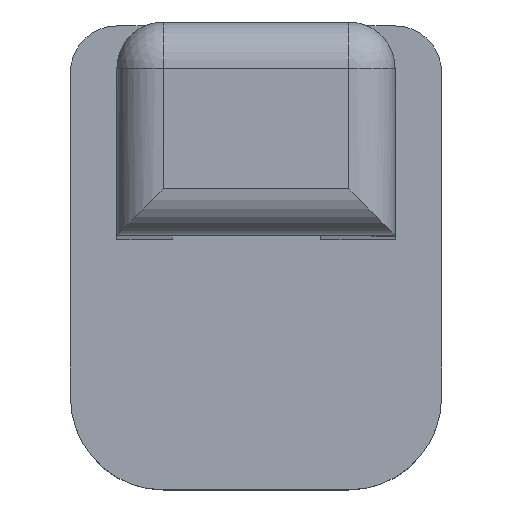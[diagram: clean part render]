
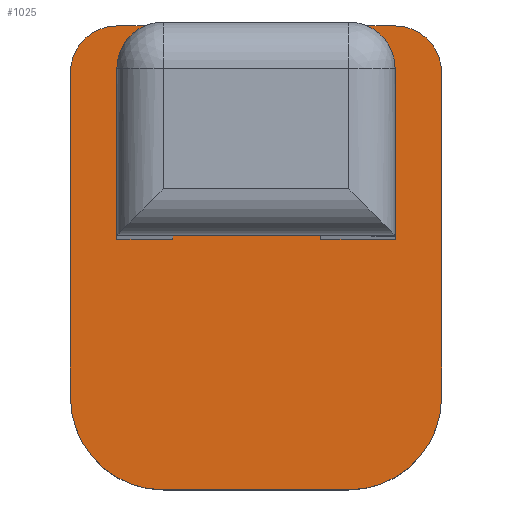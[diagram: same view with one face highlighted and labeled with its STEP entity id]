
A CAD part, top view. The second image highlights one B-rep face of the part: STEP entity #1025.
In plain terms, the highlighted planar face has unit normal (0, 0, 1).
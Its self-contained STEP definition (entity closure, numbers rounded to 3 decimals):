
#25=CIRCLE('',#1110,1.);
#40=CIRCLE('',#1127,2.);
#41=CIRCLE('',#1128,2.);
#42=CIRCLE('',#1129,1.);
#43=CIRCLE('',#1130,1.);
#44=CIRCLE('',#1131,1.);
#108=FACE_OUTER_BOUND('',#176,.T.);
#176=EDGE_LOOP('',(#752,#753,#754,#755,#756,#757,#758,#759,#760,#761,#762,
#763,#764,#765,#766,#767,#768,#769));
#270=LINE('',#1629,#371);
#275=LINE('',#1650,#376);
#278=LINE('',#1667,#379);
#279=LINE('',#1671,#380);
#280=LINE('',#1675,#381);
#281=LINE('',#1680,#382);
#282=LINE('',#1682,#383);
#283=LINE('',#1684,#384);
#284=LINE('',#1686,#385);
#285=LINE('',#1688,#386);
#286=LINE('',#1690,#387);
#287=LINE('',#1692,#388);
#371=VECTOR('',#1290,10.);
#376=VECTOR('',#1309,10.);
#379=VECTOR('',#1328,10.);
#380=VECTOR('',#1331,10.);
#381=VECTOR('',#1334,10.);
#382=VECTOR('',#1339,10.);
#383=VECTOR('',#1340,10.);
#384=VECTOR('',#1341,10.);
#385=VECTOR('',#1342,10.);
#386=VECTOR('',#1343,10.);
#387=VECTOR('',#1344,10.);
#388=VECTOR('',#1345,10.);
#460=VERTEX_POINT('',#1622);
#461=VERTEX_POINT('',#1624);
#462=VERTEX_POINT('',#1628);
#470=VERTEX_POINT('',#1647);
#471=VERTEX_POINT('',#1649);
#477=VERTEX_POINT('',#1666);
#478=VERTEX_POINT('',#1668);
#479=VERTEX_POINT('',#1670);
#480=VERTEX_POINT('',#1672);
#481=VERTEX_POINT('',#1674);
#482=VERTEX_POINT('',#1677);
#483=VERTEX_POINT('',#1679);
#484=VERTEX_POINT('',#1681);
#485=VERTEX_POINT('',#1683);
#486=VERTEX_POINT('',#1685);
#487=VERTEX_POINT('',#1687);
#488=VERTEX_POINT('',#1689);
#489=VERTEX_POINT('',#1691);
#560=EDGE_CURVE('',#460,#461,#25,.T.);
#562=EDGE_CURVE('',#461,#462,#270,.T.);
#574=EDGE_CURVE('',#470,#471,#275,.T.);
#584=EDGE_CURVE('',#477,#460,#278,.T.);
#585=EDGE_CURVE('',#478,#477,#40,.T.);
#586=EDGE_CURVE('',#479,#478,#279,.T.);
#587=EDGE_CURVE('',#480,#479,#41,.T.);
#588=EDGE_CURVE('',#481,#480,#280,.T.);
#589=EDGE_CURVE('',#471,#481,#42,.T.);
#590=EDGE_CURVE('',#482,#470,#43,.F.);
#591=EDGE_CURVE('',#482,#483,#281,.T.);
#592=EDGE_CURVE('',#483,#484,#282,.T.);
#593=EDGE_CURVE('',#484,#485,#283,.T.);
#594=EDGE_CURVE('',#485,#486,#284,.T.);
#595=EDGE_CURVE('',#486,#487,#285,.T.);
#596=EDGE_CURVE('',#487,#488,#286,.T.);
#597=EDGE_CURVE('',#488,#489,#287,.T.);
#598=EDGE_CURVE('',#462,#489,#44,.F.);
#752=ORIENTED_EDGE('',*,*,#560,.F.);
#753=ORIENTED_EDGE('',*,*,#584,.F.);
#754=ORIENTED_EDGE('',*,*,#585,.F.);
#755=ORIENTED_EDGE('',*,*,#586,.F.);
#756=ORIENTED_EDGE('',*,*,#587,.F.);
#757=ORIENTED_EDGE('',*,*,#588,.F.);
#758=ORIENTED_EDGE('',*,*,#589,.F.);
#759=ORIENTED_EDGE('',*,*,#574,.F.);
#760=ORIENTED_EDGE('',*,*,#590,.F.);
#761=ORIENTED_EDGE('',*,*,#591,.T.);
#762=ORIENTED_EDGE('',*,*,#592,.T.);
#763=ORIENTED_EDGE('',*,*,#593,.T.);
#764=ORIENTED_EDGE('',*,*,#594,.T.);
#765=ORIENTED_EDGE('',*,*,#595,.T.);
#766=ORIENTED_EDGE('',*,*,#596,.T.);
#767=ORIENTED_EDGE('',*,*,#597,.T.);
#768=ORIENTED_EDGE('',*,*,#598,.F.);
#769=ORIENTED_EDGE('',*,*,#562,.F.);
#984=PLANE('',#1126);
#1025=ADVANCED_FACE('',(#108),#984,.T.);
#1110=AXIS2_PLACEMENT_3D('',#1625,#1285,#1286);
#1126=AXIS2_PLACEMENT_3D('',#1665,#1326,#1327);
#1127=AXIS2_PLACEMENT_3D('',#1669,#1329,#1330);
#1128=AXIS2_PLACEMENT_3D('',#1673,#1332,#1333);
#1129=AXIS2_PLACEMENT_3D('',#1676,#1335,#1336);
#1130=AXIS2_PLACEMENT_3D('',#1678,#1337,#1338);
#1131=AXIS2_PLACEMENT_3D('',#1693,#1346,#1347);
#1285=DIRECTION('center_axis',(0.,0.,-1.));
#1286=DIRECTION('ref_axis',(-0.707,0.707,0.));
#1290=DIRECTION('',(1.,0.,0.));
#1309=DIRECTION('',(1.,0.,0.));
#1326=DIRECTION('center_axis',(0.,0.,1.));
#1327=DIRECTION('ref_axis',(1.,0.,0.));
#1328=DIRECTION('',(0.,1.,0.));
#1329=DIRECTION('center_axis',(0.,0.,-1.));
#1330=DIRECTION('ref_axis',(-0.707,-0.707,0.));
#1331=DIRECTION('',(-1.,0.,0.));
#1332=DIRECTION('center_axis',(0.,0.,-1.));
#1333=DIRECTION('ref_axis',(0.707,-0.707,0.));
#1334=DIRECTION('',(0.,-1.,0.));
#1335=DIRECTION('center_axis',(0.,0.,-1.));
#1336=DIRECTION('ref_axis',(0.707,0.707,0.));
#1337=DIRECTION('center_axis',(0.,0.,-1.));
#1338=DIRECTION('ref_axis',(0.707,0.707,0.));
#1339=DIRECTION('',(0.,-1.,0.));
#1340=DIRECTION('',(-1.,0.,0.));
#1341=DIRECTION('',(0.,1.,0.));
#1342=DIRECTION('',(-1.,0.,0.));
#1343=DIRECTION('',(0.,-1.,0.));
#1344=DIRECTION('',(-1.,0.,0.));
#1345=DIRECTION('',(0.,1.,0.));
#1346=DIRECTION('center_axis',(0.,0.,-1.));
#1347=DIRECTION('ref_axis',(-0.707,0.707,0.));
#1622=CARTESIAN_POINT('',(-1.,3.6,0.));
#1624=CARTESIAN_POINT('',(0.,4.6,0.));
#1625=CARTESIAN_POINT('Origin',(0.,3.6,0.));
#1628=CARTESIAN_POINT('',(1.,4.6,0.));
#1629=CARTESIAN_POINT('',(-1.,4.6,0.));
#1647=CARTESIAN_POINT('',(5.,4.6,0.));
#1649=CARTESIAN_POINT('',(6.,4.6,0.));
#1650=CARTESIAN_POINT('',(-1.,4.6,0.));
#1665=CARTESIAN_POINT('Origin',(3.,-0.4,0.));
#1666=CARTESIAN_POINT('',(-1.,-3.4,0.));
#1667=CARTESIAN_POINT('',(-1.,-5.4,0.));
#1668=CARTESIAN_POINT('',(1.,-5.4,0.));
#1669=CARTESIAN_POINT('Origin',(1.,-3.4,0.));
#1670=CARTESIAN_POINT('',(5.,-5.4,0.));
#1671=CARTESIAN_POINT('',(7.,-5.4,0.));
#1672=CARTESIAN_POINT('',(7.,-3.4,0.));
#1673=CARTESIAN_POINT('Origin',(5.,-3.4,0.));
#1674=CARTESIAN_POINT('',(7.,3.6,0.));
#1675=CARTESIAN_POINT('',(7.,4.6,0.));
#1676=CARTESIAN_POINT('Origin',(6.,3.6,0.));
#1677=CARTESIAN_POINT('',(6.,3.6,0.));
#1678=CARTESIAN_POINT('Origin',(5.,3.6,0.));
#1679=CARTESIAN_POINT('',(6.,0.,0.));
#1680=CARTESIAN_POINT('',(6.,4.6,0.));
#1681=CARTESIAN_POINT('',(4.4,0.,0.));
#1682=CARTESIAN_POINT('',(6.,0.,0.));
#1683=CARTESIAN_POINT('',(4.4,3.4,0.));
#1684=CARTESIAN_POINT('',(4.4,0.,0.));
#1685=CARTESIAN_POINT('',(1.2,3.4,0.));
#1686=CARTESIAN_POINT('',(4.4,3.4,0.));
#1687=CARTESIAN_POINT('',(1.2,0.,0.));
#1688=CARTESIAN_POINT('',(1.2,3.4,0.));
#1689=CARTESIAN_POINT('',(0.,0.,0.));
#1690=CARTESIAN_POINT('',(1.2,0.,0.));
#1691=CARTESIAN_POINT('',(0.,3.6,0.));
#1692=CARTESIAN_POINT('',(0.,0.,0.));
#1693=CARTESIAN_POINT('Origin',(1.,3.6,0.));
